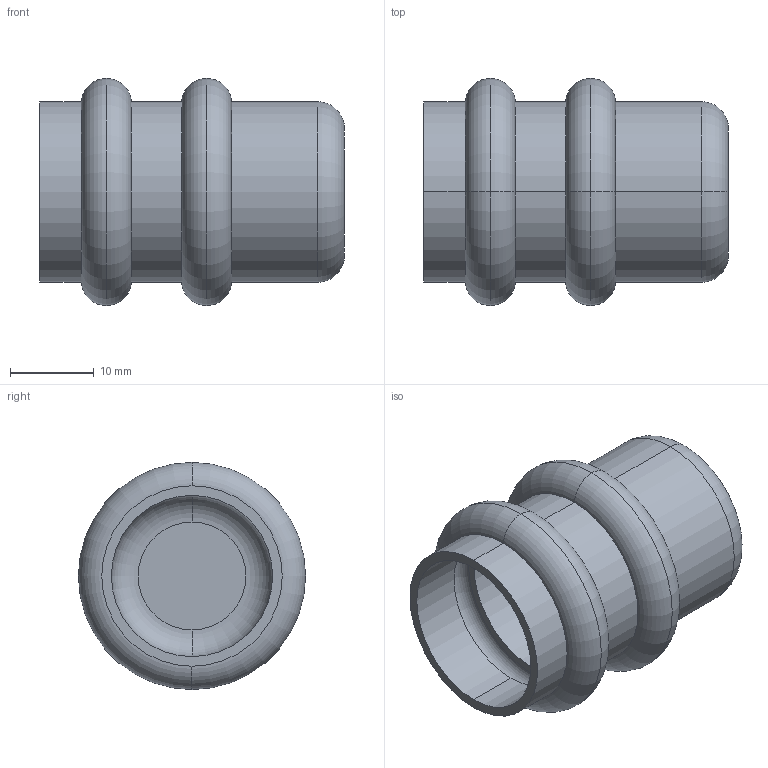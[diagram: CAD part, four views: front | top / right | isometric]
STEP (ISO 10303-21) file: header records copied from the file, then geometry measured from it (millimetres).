
FILE_DESCRIPTION(('starvars output'),'1');
FILE_NAME('cv20240422105101000011651.stp','10:51:01 2024/04/22',('Thomas Industrial Network Germany GmbH'),(' '),'Spatial InterOp 3D',' ',' ');
FILE_SCHEMA(('AUTOMOTIVE_DESIGN { 1 0 10303 214 3 1 1 }'));
Length unit declared in the file: millimetre
Products named in the file (1): 1
Bounding box: 36.5 x 27.2 x 27.2 mm (x, y, z)
Volume: 3952.2 mm3; surface area: 6492.9 mm2
Topology: 1 solids, 1 shells, 43 faces, 84 edges, 52 vertices
Faces by surface type: torus 20, cylinder 12, plane 11
Entity records: 1502 total; most frequent: DIRECTION 244, CARTESIAN_POINT 180, ORIENTED_EDGE 168, AXIS2_PLACEMENT_3D 116, EDGE_CURVE 84, CIRCLE 72, EDGE_LOOP 52, VERTEX_POINT 52
